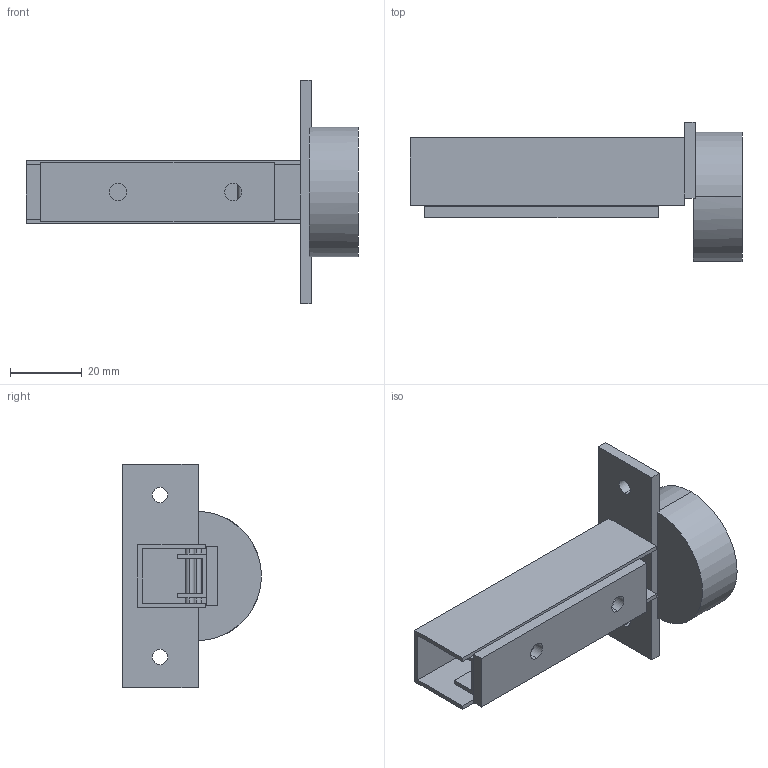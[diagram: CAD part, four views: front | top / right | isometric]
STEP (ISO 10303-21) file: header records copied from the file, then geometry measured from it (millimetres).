
FILE_DESCRIPTION (( 'STEP AP203' ), '1' );
FILE_NAME ('STA685+SQ00YQ.STEP', '2020-04-21T05:29:22', ( 'Windows 蚚誧' ), ( '' ), 'SwSTEP 2.0', 'SolidWorks 2012', '' );
FILE_SCHEMA (( 'CONFIG_CONTROL_DESIGN' ));
Length unit declared in the file: millimetre
Products named in the file (1): STA685+SQ00YQ
Bounding box: 92.27 x 38.61 x 62.01 mm (x, y, z)
Volume: 27100.7 mm3; surface area: 18454 mm2
Topology: 1 solids, 1 shells, 72 faces, 206 edges, 136 vertices
Faces by surface type: plane 46, cylinder 26
Entity records: 2473 total; most frequent: CARTESIAN_POINT 415, DIRECTION 414, ORIENTED_EDGE 412, EDGE_CURVE 206, LINE 144, VECTOR 144, VERTEX_POINT 136, AXIS2_PLACEMENT_3D 135
